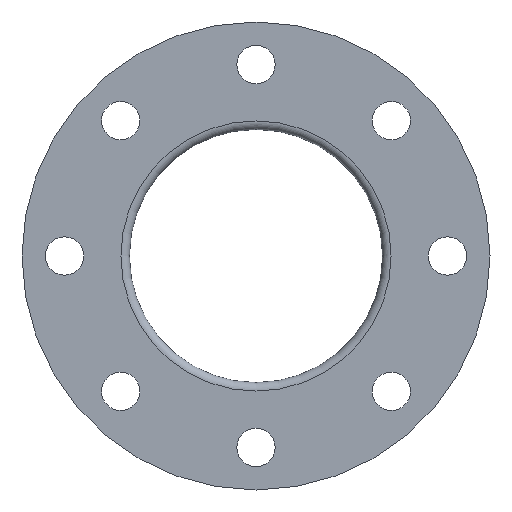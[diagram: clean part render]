
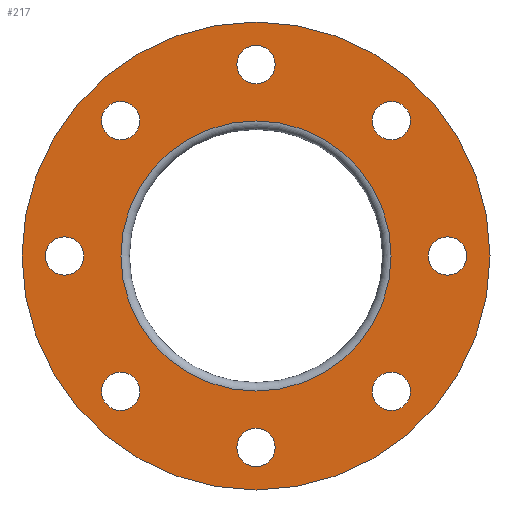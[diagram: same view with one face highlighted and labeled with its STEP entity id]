
A CAD part, front view. The second image highlights one B-rep face of the part: STEP entity #217.
In plain terms, the highlighted planar face has unit normal (0, -1, 0).
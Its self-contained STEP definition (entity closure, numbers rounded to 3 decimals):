
#13=PLANE($,#236);
#27=FACE_BOUND($,#72,.T.);
#28=FACE_BOUND($,#73,.T.);
#29=FACE_BOUND($,#74,.T.);
#30=FACE_BOUND($,#75,.T.);
#31=FACE_BOUND($,#76,.T.);
#32=FACE_BOUND($,#77,.T.);
#33=FACE_BOUND($,#78,.T.);
#34=FACE_BOUND($,#79,.T.);
#35=FACE_BOUND($,#80,.T.);
#57=FACE_OUTER_BOUND($,#71,.T.);
#71=EDGE_LOOP($,(#176));
#72=EDGE_LOOP($,(#177));
#73=EDGE_LOOP($,(#178));
#74=EDGE_LOOP($,(#179));
#75=EDGE_LOOP($,(#180));
#76=EDGE_LOOP($,(#181));
#77=EDGE_LOOP($,(#182));
#78=EDGE_LOOP($,(#183));
#79=EDGE_LOOP($,(#184));
#80=EDGE_LOOP($,(#185));
#110=CIRCLE($,#233,63.5);
#112=CIRCLE($,#237,110.);
#113=CIRCLE($,#238,9.);
#114=CIRCLE($,#239,9.);
#115=CIRCLE($,#240,9.);
#116=CIRCLE($,#241,9.);
#117=CIRCLE($,#242,9.);
#118=CIRCLE($,#243,9.);
#119=CIRCLE($,#244,9.);
#120=CIRCLE($,#245,9.);
#131=VERTEX_POINT($,#339);
#133=VERTEX_POINT($,#345);
#134=VERTEX_POINT($,#347);
#135=VERTEX_POINT($,#349);
#136=VERTEX_POINT($,#351);
#137=VERTEX_POINT($,#353);
#138=VERTEX_POINT($,#355);
#139=VERTEX_POINT($,#357);
#140=VERTEX_POINT($,#359);
#141=VERTEX_POINT($,#361);
#152=EDGE_CURVE($,#131,#131,#110,.T.);
#154=EDGE_CURVE($,#133,#133,#112,.T.);
#155=EDGE_CURVE($,#134,#134,#113,.T.);
#156=EDGE_CURVE($,#135,#135,#114,.T.);
#157=EDGE_CURVE($,#136,#136,#115,.T.);
#158=EDGE_CURVE($,#137,#137,#116,.T.);
#159=EDGE_CURVE($,#138,#138,#117,.T.);
#160=EDGE_CURVE($,#139,#139,#118,.T.);
#161=EDGE_CURVE($,#140,#140,#119,.T.);
#162=EDGE_CURVE($,#141,#141,#120,.T.);
#176=ORIENTED_EDGE($,*,*,#154,.F.);
#177=ORIENTED_EDGE($,*,*,#155,.T.);
#178=ORIENTED_EDGE($,*,*,#156,.T.);
#179=ORIENTED_EDGE($,*,*,#157,.T.);
#180=ORIENTED_EDGE($,*,*,#158,.T.);
#181=ORIENTED_EDGE($,*,*,#159,.T.);
#182=ORIENTED_EDGE($,*,*,#160,.T.);
#183=ORIENTED_EDGE($,*,*,#161,.T.);
#184=ORIENTED_EDGE($,*,*,#162,.T.);
#185=ORIENTED_EDGE($,*,*,#152,.F.);
#217=ADVANCED_FACE($,(#57,#27,#28,#29,#30,#31,#32,#33,#34,#35),#13,.T.);
#233=AXIS2_PLACEMENT_3D($,#340,#271,#272);
#236=AXIS2_PLACEMENT_3D($,#344,#277,#278);
#237=AXIS2_PLACEMENT_3D($,#346,#279,#280);
#238=AXIS2_PLACEMENT_3D($,#348,#281,#282);
#239=AXIS2_PLACEMENT_3D($,#350,#283,#284);
#240=AXIS2_PLACEMENT_3D($,#352,#285,#286);
#241=AXIS2_PLACEMENT_3D($,#354,#287,#288);
#242=AXIS2_PLACEMENT_3D($,#356,#289,#290);
#243=AXIS2_PLACEMENT_3D($,#358,#291,#292);
#244=AXIS2_PLACEMENT_3D($,#360,#293,#294);
#245=AXIS2_PLACEMENT_3D($,#362,#295,#296);
#271=DIRECTION('center_axis',(0.,-1.,0.));
#272=DIRECTION('ref_axis',(1.,0.,0.));
#277=DIRECTION('center_axis',(0.,-1.,0.));
#278=DIRECTION('ref_axis',(0.,0.,-1.));
#279=DIRECTION('center_axis',(0.,1.,0.));
#280=DIRECTION('ref_axis',(-1.,0.,0.));
#281=DIRECTION('center_axis',(0.,1.,0.));
#282=DIRECTION('ref_axis',(1.,0.,0.));
#283=DIRECTION('center_axis',(0.,1.,0.));
#284=DIRECTION('ref_axis',(0.707,0.,-0.707));
#285=DIRECTION('center_axis',(0.,1.,0.));
#286=DIRECTION('ref_axis',(0.,0.,-1.));
#287=DIRECTION('center_axis',(0.,1.,0.));
#288=DIRECTION('ref_axis',(-0.707,0.,-0.707));
#289=DIRECTION('center_axis',(0.,1.,0.));
#290=DIRECTION('ref_axis',(-1.,0.,0.));
#291=DIRECTION('center_axis',(0.,1.,0.));
#292=DIRECTION('ref_axis',(-0.707,0.,0.707));
#293=DIRECTION('center_axis',(0.,1.,0.));
#294=DIRECTION('ref_axis',(0.,0.,1.));
#295=DIRECTION('center_axis',(0.,1.,0.));
#296=DIRECTION('ref_axis',(0.707,0.,0.707));
#339=CARTESIAN_POINT('',(-63.5,0.,0.));
#340=CARTESIAN_POINT('Origin',(0.,0.,0.));
#344=CARTESIAN_POINT('Origin',(-55.,0.,0.));
#345=CARTESIAN_POINT('',(-110.,0.,0.));
#346=CARTESIAN_POINT('Origin',(0.,0.,0.));
#347=CARTESIAN_POINT('',(81.,0.,0.));
#348=CARTESIAN_POINT('Origin',(90.,0.,0.));
#349=CARTESIAN_POINT('',(57.276,0.,-57.276));
#350=CARTESIAN_POINT('Origin',(63.64,0.,-63.64));
#351=CARTESIAN_POINT('',(0.,0.,-81.));
#352=CARTESIAN_POINT('Origin',(0.,0.,-90.));
#353=CARTESIAN_POINT('',(-57.276,0.,-57.276));
#354=CARTESIAN_POINT('Origin',(-63.64,0.,-63.64));
#355=CARTESIAN_POINT('',(-81.,0.,0.));
#356=CARTESIAN_POINT('Origin',(-90.,0.,0.));
#357=CARTESIAN_POINT('',(-57.276,0.,57.276));
#358=CARTESIAN_POINT('Origin',(-63.64,0.,63.64));
#359=CARTESIAN_POINT('',(0.,0.,81.));
#360=CARTESIAN_POINT('Origin',(0.,0.,90.));
#361=CARTESIAN_POINT('',(57.276,0.,57.276));
#362=CARTESIAN_POINT('Origin',(63.64,0.,63.64));
